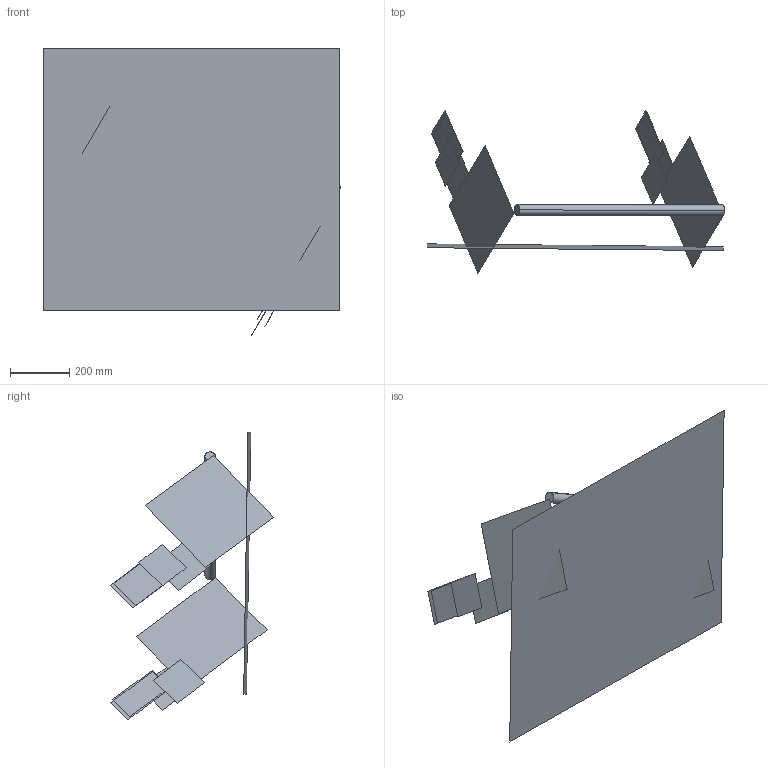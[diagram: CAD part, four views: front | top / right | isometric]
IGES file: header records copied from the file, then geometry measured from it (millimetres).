
Start section: ACIS data in IGES format
Global section: file name: Unknown; native system: ACIS; preprocessor: *IGES writer V5.2; author: Unknown; organization: Unknown; date: 20031010.093052; units: millimetre
Bounding box: 1008.68 x 555.07 x 975.04 mm (x, y, z)
Surface area: 1308504.1 mm2 (no closed solid volume)
Topology: 0 solids, 0 shells, 15 faces, 120 edges, 157 vertices
Faces by surface type: bspline 15
